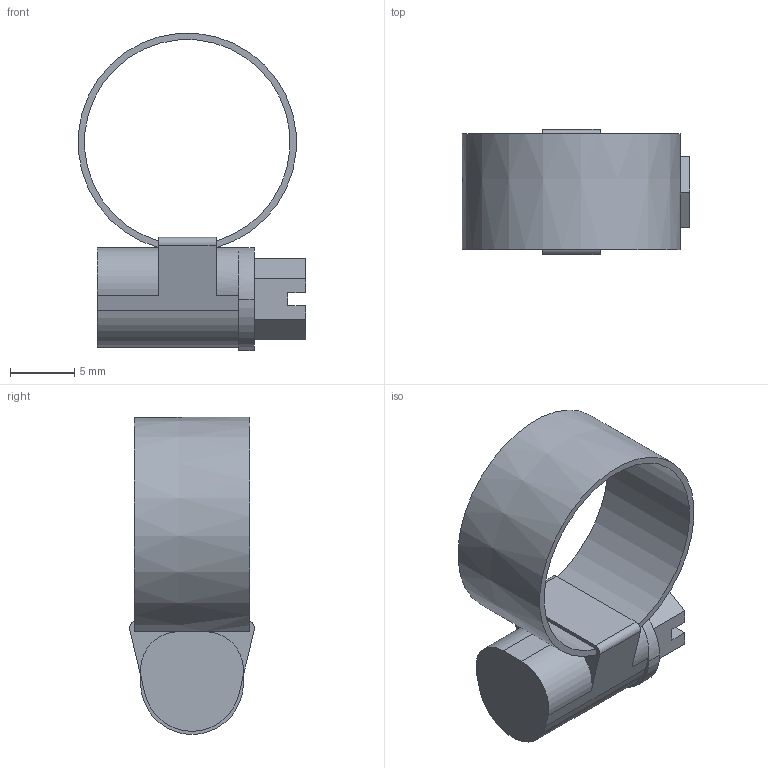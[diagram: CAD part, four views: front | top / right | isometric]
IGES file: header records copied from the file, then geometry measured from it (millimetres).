
Start section:  PTC IGES file: 1821310001\1821310001.iges
Global section: file name: 1821310001\1821310001.iges; native system: Creo Parametric by PTC Inc.; preprocessor: 2023092; author: GND7HC; organization: Unknown; date: 20250211.171058; units: millimetre
Bounding box: 17.67 x 9.73 x 24.67 mm (x, y, z)
Surface area: 1454.8 mm2 (no closed solid volume)
Topology: 0 solids, 0 shells, 44 faces, 244 edges, 244 vertices
Faces by surface type: bspline 33, revolution 11
